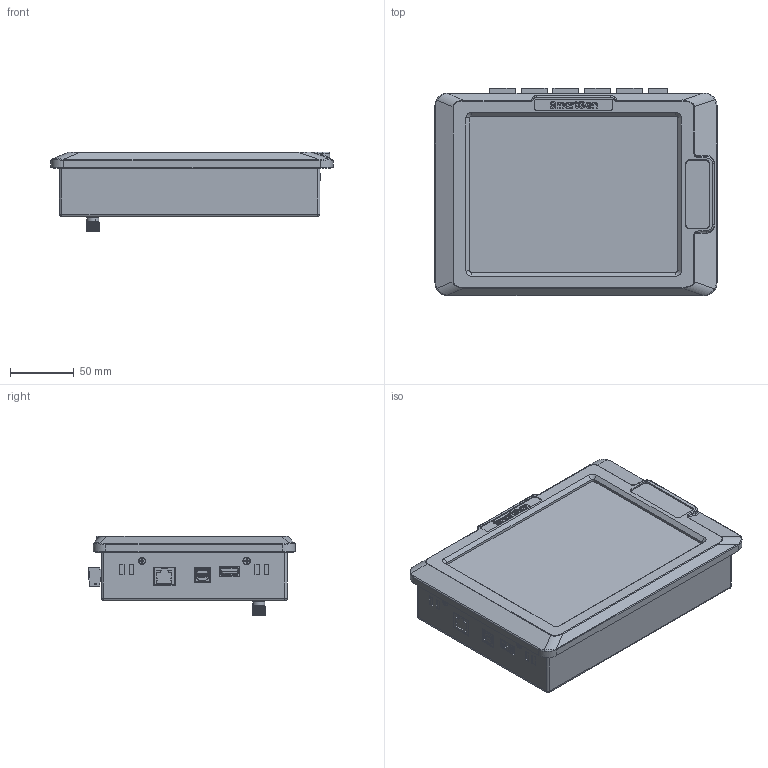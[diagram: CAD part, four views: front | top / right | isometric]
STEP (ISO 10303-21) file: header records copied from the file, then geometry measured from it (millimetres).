
FILE_DESCRIPTION (( 'STEP AP203' ), '1' );
FILE_NAME ('HMU8N-EMS WZ.STEP', '2023-06-21T00:53:22', ( 'Sky123.Org' ), ( 'Sky123.Org' ), 'SwSTEP 2.0', 'SolidWorks 2018', '' );
FILE_SCHEMA (( 'CONFIG_CONTROL_DESIGN' ));
Products named in the file (1): HMU8N-EMS WZ
Bounding box: 220.92 x 162.2 x 62.55 mm (x, y, z)
Volume: 1484925.4 mm3; surface area: 137740.4 mm2
Topology: 22 solids, 24 shells, 4270 faces, 10987 edges, 6973 vertices
Faces by surface type: plane 3188, cylinder 824, cone 142, bspline 108, sphere 4, torus 4
Entity records: 130360 total; most frequent: CARTESIAN_POINT 26746, ORIENTED_EDGE 21962, DIRECTION 20792, EDGE_CURVE 10981, VECTOR 8236, LINE 8236, VERTEX_POINT 6973, AXIS2_PLACEMENT_3D 6278
